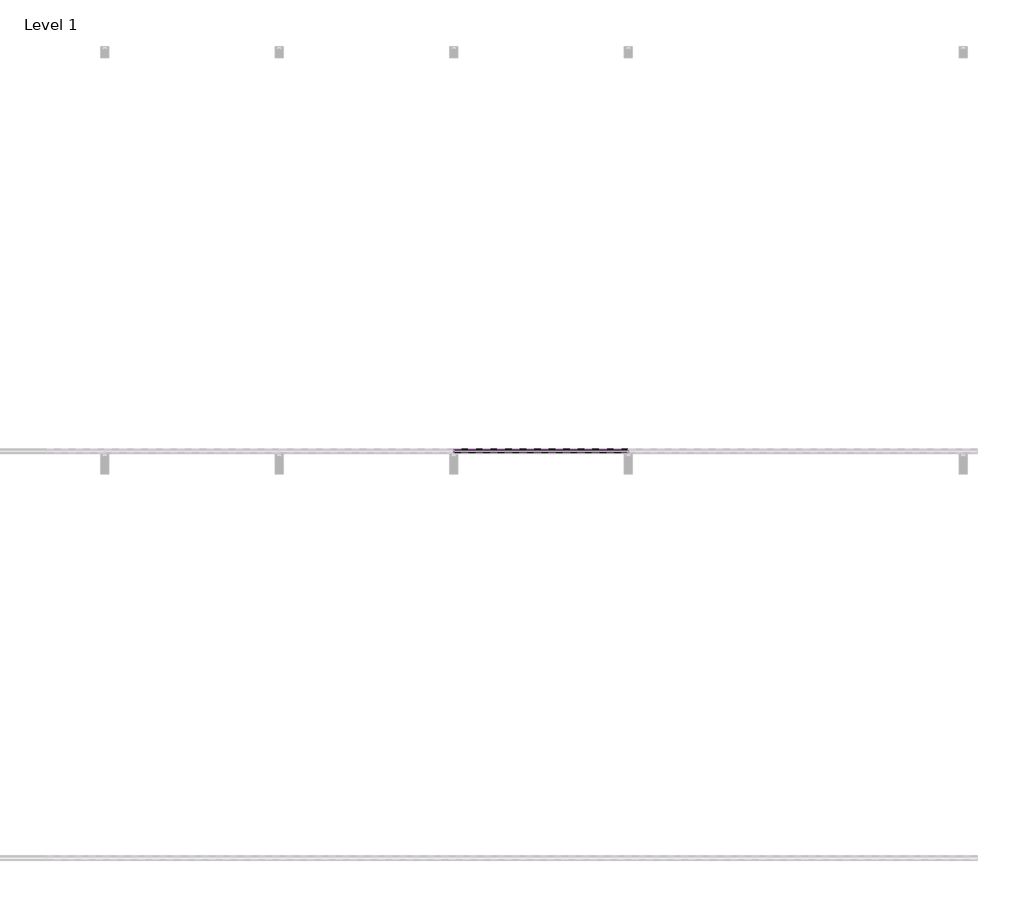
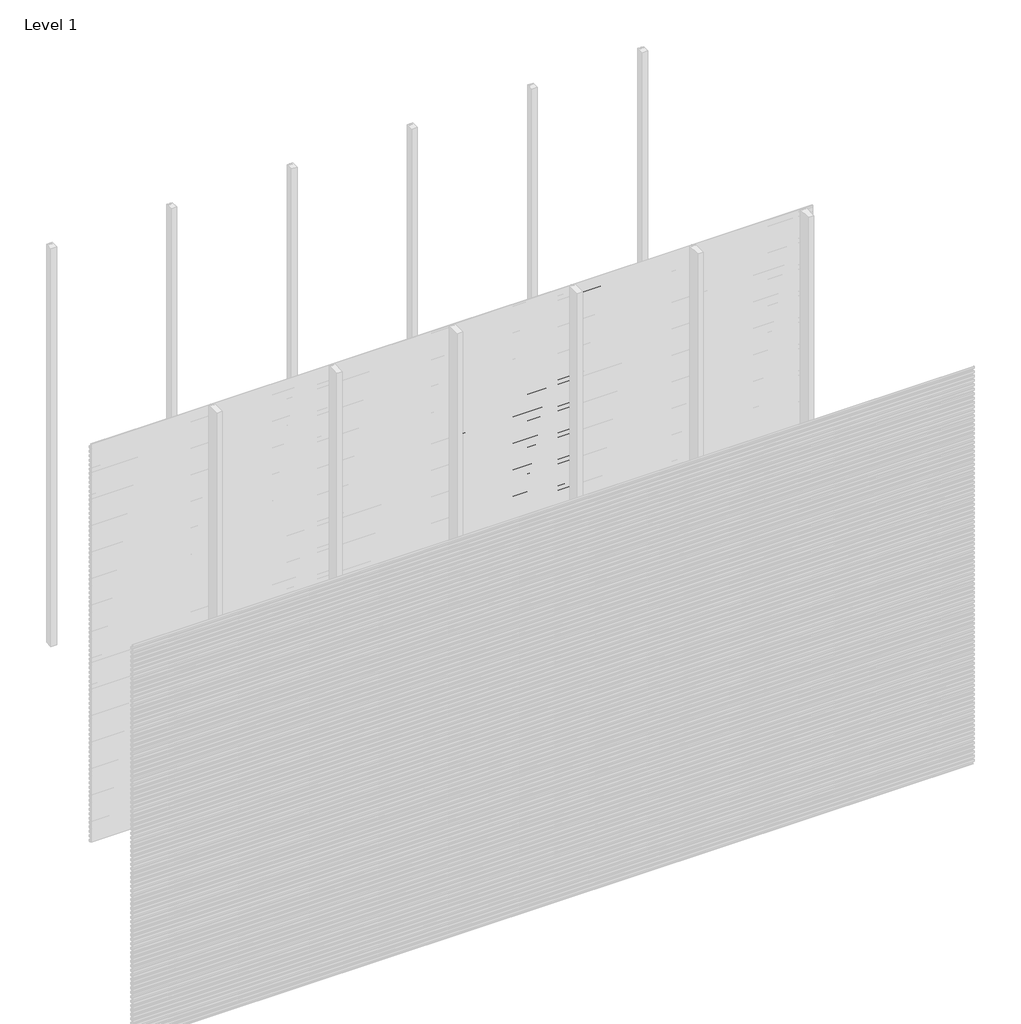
# One storey, part 38 of 96: 77 proxies.
"""IFC4 building model written with IfcOpenShell, lengths in millimetres."""

from ifc_helpers import new_model, si_unit, frame, origin, place, context, project, spatial, polyline, outline, extrude, element, save

model = new_model("IFC4")

# Units and contexts
model_context = context("Model", 3, world=origin())
ifc_project = project(units=[si_unit("LENGTHUNIT", "METRE", prefix="MILLI")], contexts=[model_context])

# Site, building, storey
site = spatial("IfcSite", under=ifc_project)
building = spatial("IfcBuilding", under=site)
storey = spatial("IfcBuildingStorey", under=building, Name="Level 1", Elevation=0.0)

# Proxies
placement = place(None, origin())
element("IfcBuildingElementProxy", 1, Name="Wall Sweeps", at=placement, inside=storey, context=model_context, shape_type="SweptSolid", body=[
    extrude(outline(polyline([(-35977.6, 2438.9655033), (-35977.6, 2424.6779188), (-35982.4114965, 2421.9), (-35982.4114965, 2423.1701706), (-35978.85, 2425.2264016), (-35978.85, 2438.2437382), (-35998.0, 2449.3000799), (-35998.0, 2464.2), (-35996.75, 2464.2), (-35996.75, 2450.0217609), (-35977.6, 2438.9655033)])), frame((3428.5714286, 0.0, 0.0), z_axis=(1.0, 0.0, 0.0), x_axis=(0.0, 1.0, 0.0)), (0.0, 0.0, 1.0), 857.1428571),
])
element("IfcBuildingElementProxy", 2, Name="Wall Sweeps", at=placement, inside=storey, context=model_context, shape_type="SweptSolid", body=[
    extrude(outline(polyline([(-35977.6, 2405.6655033), (-35977.6, 2391.3779188), (-35982.4114965, 2388.6), (-35982.4114965, 2389.8701706), (-35978.85, 2391.9264016), (-35978.85, 2404.9437382), (-35998.0, 2416.0000799), (-35998.0, 2430.9), (-35996.75, 2430.9), (-35996.75, 2416.7217609), (-35977.6, 2405.6655033)])), frame((3428.5714286, 0.0, 0.0), z_axis=(1.0, 0.0, 0.0), x_axis=(0.0, 1.0, 0.0)), (0.0, 0.0, 1.0), 857.1428571),
])
element("IfcBuildingElementProxy", 3, Name="Wall Sweeps", at=placement, inside=storey, context=model_context, shape_type="SweptSolid", body=[
    extrude(outline(polyline([(-35977.6, 2372.3655033), (-35977.6, 2358.0779188), (-35982.4114965, 2355.3), (-35982.4114965, 2356.5701706), (-35978.85, 2358.6264016), (-35978.85, 2371.6437382), (-35998.0, 2382.7000799), (-35998.0, 2397.6), (-35996.75, 2397.6), (-35996.75, 2383.4217609), (-35977.6, 2372.3655033)])), frame((3428.5714286, 0.0, 0.0), z_axis=(1.0, 0.0, 0.0), x_axis=(0.0, 1.0, 0.0)), (0.0, 0.0, 1.0), 857.1428571),
])
element("IfcBuildingElementProxy", 4, Name="Wall Sweeps", at=placement, inside=storey, context=model_context, shape_type="SweptSolid", body=[
    extrude(outline(polyline([(-35977.6, 2339.0655033), (-35977.6, 2324.7779188), (-35982.4114965, 2322.0), (-35982.4114965, 2323.2701706), (-35978.85, 2325.3264016), (-35978.85, 2338.3437382), (-35998.0, 2349.4000799), (-35998.0, 2364.3), (-35996.75, 2364.3), (-35996.75, 2350.1217609), (-35977.6, 2339.0655033)])), frame((3428.5714286, 0.0, 0.0), z_axis=(1.0, 0.0, 0.0), x_axis=(0.0, 1.0, 0.0)), (0.0, 0.0, 1.0), 857.1428571),
])
element("IfcBuildingElementProxy", 5, Name="Wall Sweeps", at=placement, inside=storey, context=model_context, shape_type="SweptSolid", body=[
    extrude(outline(polyline([(-35977.6, 2305.7655033), (-35977.6, 2291.4779188), (-35982.4114965, 2288.7), (-35982.4114965, 2289.9701706), (-35978.85, 2292.0264016), (-35978.85, 2305.0437382), (-35998.0, 2316.1000799), (-35998.0, 2331.0), (-35996.75, 2331.0), (-35996.75, 2316.8217609), (-35977.6, 2305.7655033)])), frame((3428.5714286, 0.0, 0.0), z_axis=(1.0, 0.0, 0.0), x_axis=(0.0, 1.0, 0.0)), (0.0, 0.0, 1.0), 857.1428571),
])
element("IfcBuildingElementProxy", 6, Name="Wall Sweeps", at=placement, inside=storey, context=model_context, shape_type="SweptSolid", body=[
    extrude(outline(polyline([(-35977.6, 2272.4655033), (-35977.6, 2258.1779188), (-35982.4114965, 2255.4), (-35982.4114965, 2256.6701706), (-35978.85, 2258.7264016), (-35978.85, 2271.7437382), (-35998.0, 2282.8000799), (-35998.0, 2297.7), (-35996.75, 2297.7), (-35996.75, 2283.5217609), (-35977.6, 2272.4655033)])), frame((3428.5714286, 0.0, 0.0), z_axis=(1.0, 0.0, 0.0), x_axis=(0.0, 1.0, 0.0)), (0.0, 0.0, 1.0), 857.1428571),
])
element("IfcBuildingElementProxy", 7, Name="Wall Sweeps", at=placement, inside=storey, context=model_context, shape_type="SweptSolid", body=[
    extrude(outline(polyline([(-35977.6, 2239.1655033), (-35977.6, 2224.8779188), (-35982.4114965, 2222.1), (-35982.4114965, 2223.3701706), (-35978.85, 2225.4264016), (-35978.85, 2238.4437382), (-35998.0, 2249.5000799), (-35998.0, 2264.4), (-35996.75, 2264.4), (-35996.75, 2250.2217609), (-35977.6, 2239.1655033)])), frame((3428.5714286, 0.0, 0.0), z_axis=(1.0, 0.0, 0.0), x_axis=(0.0, 1.0, 0.0)), (0.0, 0.0, 1.0), 857.1428571),
])
element("IfcBuildingElementProxy", 8, Name="Wall Sweeps", at=placement, inside=storey, context=model_context, shape_type="SweptSolid", body=[
    extrude(outline(polyline([(-35977.6, 2205.8655033), (-35977.6, 2191.5779188), (-35982.4114965, 2188.8), (-35982.4114965, 2190.0701706), (-35978.85, 2192.1264016), (-35978.85, 2205.1437382), (-35998.0, 2216.2000799), (-35998.0, 2231.1), (-35996.75, 2231.1), (-35996.75, 2216.9217609), (-35977.6, 2205.8655033)])), frame((3428.5714286, 0.0, 0.0), z_axis=(1.0, 0.0, 0.0), x_axis=(0.0, 1.0, 0.0)), (0.0, 0.0, 1.0), 857.1428571),
])
element("IfcBuildingElementProxy", 9, Name="Wall Sweeps", at=placement, inside=storey, context=model_context, shape_type="SweptSolid", body=[
    extrude(outline(polyline([(-35977.6, 2172.5655033), (-35977.6, 2158.2779188), (-35982.4114965, 2155.5), (-35982.4114965, 2156.7701706), (-35978.85, 2158.8264016), (-35978.85, 2171.8437382), (-35998.0, 2182.9000799), (-35998.0, 2197.8), (-35996.75, 2197.8), (-35996.75, 2183.6217609), (-35977.6, 2172.5655033)])), frame((3428.5714286, 0.0, 0.0), z_axis=(1.0, 0.0, 0.0), x_axis=(0.0, 1.0, 0.0)), (0.0, 0.0, 1.0), 857.1428571),
])
element("IfcBuildingElementProxy", 10, Name="Wall Sweeps", at=placement, inside=storey, context=model_context, shape_type="SweptSolid", body=[
    extrude(outline(polyline([(-35977.6, 2139.2655033), (-35977.6, 2124.9779188), (-35982.4114965, 2122.2), (-35982.4114965, 2123.4701706), (-35978.85, 2125.5264016), (-35978.85, 2138.5437382), (-35998.0, 2149.6000799), (-35998.0, 2164.5), (-35996.75, 2164.5), (-35996.75, 2150.3217609), (-35977.6, 2139.2655033)])), frame((3428.5714286, 0.0, 0.0), z_axis=(1.0, 0.0, 0.0), x_axis=(0.0, 1.0, 0.0)), (0.0, 0.0, 1.0), 857.1428571),
])
element("IfcBuildingElementProxy", 11, Name="Wall Sweeps", at=placement, inside=storey, context=model_context, shape_type="SweptSolid", body=[
    extrude(outline(polyline([(-35977.6, 2105.9655033), (-35977.6, 2091.6779188), (-35982.4114965, 2088.9), (-35982.4114965, 2090.1701706), (-35978.85, 2092.2264016), (-35978.85, 2105.2437382), (-35998.0, 2116.3000799), (-35998.0, 2131.2), (-35996.75, 2131.2), (-35996.75, 2117.0217609), (-35977.6, 2105.9655033)])), frame((3428.5714286, 0.0, 0.0), z_axis=(1.0, 0.0, 0.0), x_axis=(0.0, 1.0, 0.0)), (0.0, 0.0, 1.0), 857.1428571),
])
element("IfcBuildingElementProxy", 12, Name="Wall Sweeps", at=placement, inside=storey, context=model_context, shape_type="SweptSolid", body=[
    extrude(outline(polyline([(-35977.6, 2072.6655033), (-35977.6, 2058.3779188), (-35982.4114965, 2055.6), (-35982.4114965, 2056.8701706), (-35978.85, 2058.9264016), (-35978.85, 2071.9437382), (-35998.0, 2083.0000799), (-35998.0, 2097.9), (-35996.75, 2097.9), (-35996.75, 2083.7217609), (-35977.6, 2072.6655033)])), frame((3428.5714286, 0.0, 0.0), z_axis=(1.0, 0.0, 0.0), x_axis=(0.0, 1.0, 0.0)), (0.0, 0.0, 1.0), 857.1428571),
])
element("IfcBuildingElementProxy", 13, Name="Wall Sweeps", at=placement, inside=storey, context=model_context, shape_type="SweptSolid", body=[
    extrude(outline(polyline([(-35977.6, 2039.3655033), (-35977.6, 2025.0779188), (-35982.4114965, 2022.3), (-35982.4114965, 2023.5701706), (-35978.85, 2025.6264016), (-35978.85, 2038.6437382), (-35998.0, 2049.7000799), (-35998.0, 2064.6), (-35996.75, 2064.6), (-35996.75, 2050.4217609), (-35977.6, 2039.3655033)])), frame((3428.5714286, 0.0, 0.0), z_axis=(1.0, 0.0, 0.0), x_axis=(0.0, 1.0, 0.0)), (0.0, 0.0, 1.0), 857.1428571),
])
element("IfcBuildingElementProxy", 14, Name="Wall Sweeps", at=placement, inside=storey, context=model_context, shape_type="SweptSolid", body=[
    extrude(outline(polyline([(-35977.6, 2006.0655033), (-35977.6, 1991.7779188), (-35982.4114965, 1989.0), (-35982.4114965, 1990.2701706), (-35978.85, 1992.3264016), (-35978.85, 2005.3437382), (-35998.0, 2016.4000799), (-35998.0, 2031.3), (-35996.75, 2031.3), (-35996.75, 2017.1217609), (-35977.6, 2006.0655033)])), frame((3428.5714286, 0.0, 0.0), z_axis=(1.0, 0.0, 0.0), x_axis=(0.0, 1.0, 0.0)), (0.0, 0.0, 1.0), 857.1428571),
])
element("IfcBuildingElementProxy", 15, Name="Wall Sweeps", at=placement, inside=storey, context=model_context, shape_type="SweptSolid", body=[
    extrude(outline(polyline([(-35977.6, 1972.7655033), (-35977.6, 1958.4779188), (-35982.4114965, 1955.7), (-35982.4114965, 1956.9701706), (-35978.85, 1959.0264016), (-35978.85, 1972.0437382), (-35998.0, 1983.1000799), (-35998.0, 1998.0), (-35996.75, 1998.0), (-35996.75, 1983.8217609), (-35977.6, 1972.7655033)])), frame((3428.5714286, 0.0, 0.0), z_axis=(1.0, 0.0, 0.0), x_axis=(0.0, 1.0, 0.0)), (0.0, 0.0, 1.0), 857.1428571),
])
element("IfcBuildingElementProxy", 16, Name="Wall Sweeps", at=placement, inside=storey, context=model_context, shape_type="SweptSolid", body=[
    extrude(outline(polyline([(-35977.6, 1939.4655033), (-35977.6, 1925.1779188), (-35982.4114965, 1922.4), (-35982.4114965, 1923.6701706), (-35978.85, 1925.7264016), (-35978.85, 1938.7437382), (-35998.0, 1949.8000799), (-35998.0, 1964.7), (-35996.75, 1964.7), (-35996.75, 1950.5217609), (-35977.6, 1939.4655033)])), frame((3428.5714286, 0.0, 0.0), z_axis=(1.0, 0.0, 0.0), x_axis=(0.0, 1.0, 0.0)), (0.0, 0.0, 1.0), 857.1428571),
])
element("IfcBuildingElementProxy", 17, Name="Wall Sweeps", at=placement, inside=storey, context=model_context, shape_type="SweptSolid", body=[
    extrude(outline(polyline([(-35977.6, 1906.1655033), (-35977.6, 1891.8779188), (-35982.4114965, 1889.1), (-35982.4114965, 1890.3701706), (-35978.85, 1892.4264016), (-35978.85, 1905.4437382), (-35998.0, 1916.5000799), (-35998.0, 1931.4), (-35996.75, 1931.4), (-35996.75, 1917.2217609), (-35977.6, 1906.1655033)])), frame((3428.5714286, 0.0, 0.0), z_axis=(1.0, 0.0, 0.0), x_axis=(0.0, 1.0, 0.0)), (0.0, 0.0, 1.0), 857.1428571),
])
element("IfcBuildingElementProxy", 18, Name="Wall Sweeps", at=placement, inside=storey, context=model_context, shape_type="SweptSolid", body=[
    extrude(outline(polyline([(-35977.6, 1872.8655033), (-35977.6, 1858.5779188), (-35982.4114965, 1855.8), (-35982.4114965, 1857.0701706), (-35978.85, 1859.1264016), (-35978.85, 1872.1437382), (-35998.0, 1883.2000799), (-35998.0, 1898.1), (-35996.75, 1898.1), (-35996.75, 1883.9217609), (-35977.6, 1872.8655033)])), frame((3428.5714286, 0.0, 0.0), z_axis=(1.0, 0.0, 0.0), x_axis=(0.0, 1.0, 0.0)), (0.0, 0.0, 1.0), 857.1428571),
])
element("IfcBuildingElementProxy", 19, Name="Wall Sweeps", at=placement, inside=storey, context=model_context, shape_type="SweptSolid", body=[
    extrude(outline(polyline([(-35977.6, 1839.5655033), (-35977.6, 1825.2779188), (-35982.4114965, 1822.5), (-35982.4114965, 1823.7701706), (-35978.85, 1825.8264016), (-35978.85, 1838.8437382), (-35998.0, 1849.9000799), (-35998.0, 1864.8), (-35996.75, 1864.8), (-35996.75, 1850.6217609), (-35977.6, 1839.5655033)])), frame((3428.5714286, 0.0, 0.0), z_axis=(1.0, 0.0, 0.0), x_axis=(0.0, 1.0, 0.0)), (0.0, 0.0, 1.0), 857.1428571),
])
element("IfcBuildingElementProxy", 20, Name="Wall Sweeps", at=placement, inside=storey, context=model_context, shape_type="SweptSolid", body=[
    extrude(outline(polyline([(-35977.6, 1806.2655033), (-35977.6, 1791.9779188), (-35982.4114965, 1789.2), (-35982.4114965, 1790.4701706), (-35978.85, 1792.5264016), (-35978.85, 1805.5437382), (-35998.0, 1816.6000799), (-35998.0, 1831.5), (-35996.75, 1831.5), (-35996.75, 1817.3217609), (-35977.6, 1806.2655033)])), frame((3428.5714286, 0.0, 0.0), z_axis=(1.0, 0.0, 0.0), x_axis=(0.0, 1.0, 0.0)), (0.0, 0.0, 1.0), 857.1428571),
])
element("IfcBuildingElementProxy", 21, Name="Wall Sweeps", at=placement, inside=storey, context=model_context, shape_type="SweptSolid", body=[
    extrude(outline(polyline([(-35977.6, 1772.9655033), (-35977.6, 1758.6779188), (-35982.4114965, 1755.9), (-35982.4114965, 1757.1701706), (-35978.85, 1759.2264016), (-35978.85, 1772.2437382), (-35998.0, 1783.3000799), (-35998.0, 1798.2), (-35996.75, 1798.2), (-35996.75, 1784.0217609), (-35977.6, 1772.9655033)])), frame((3428.5714286, 0.0, 0.0), z_axis=(1.0, 0.0, 0.0), x_axis=(0.0, 1.0, 0.0)), (0.0, 0.0, 1.0), 857.1428571),
])
element("IfcBuildingElementProxy", 22, Name="Wall Sweeps", at=placement, inside=storey, context=model_context, shape_type="SweptSolid", body=[
    extrude(outline(polyline([(-35977.6, 1739.6655033), (-35977.6, 1725.3779188), (-35982.4114965, 1722.6), (-35982.4114965, 1723.8701706), (-35978.85, 1725.9264016), (-35978.85, 1738.9437382), (-35998.0, 1750.0000799), (-35998.0, 1764.9), (-35996.75, 1764.9), (-35996.75, 1750.7217609), (-35977.6, 1739.6655033)])), frame((3428.5714286, 0.0, 0.0), z_axis=(1.0, 0.0, 0.0), x_axis=(0.0, 1.0, 0.0)), (0.0, 0.0, 1.0), 857.1428571),
])
element("IfcBuildingElementProxy", 23, Name="Wall Sweeps", at=placement, inside=storey, context=model_context, shape_type="SweptSolid", body=[
    extrude(outline(polyline([(-35977.6, 1706.3655033), (-35977.6, 1692.0779188), (-35982.4114965, 1689.3), (-35982.4114965, 1690.5701706), (-35978.85, 1692.6264016), (-35978.85, 1705.6437382), (-35998.0, 1716.7000799), (-35998.0, 1731.6), (-35996.75, 1731.6), (-35996.75, 1717.4217609), (-35977.6, 1706.3655033)])), frame((3428.5714286, 0.0, 0.0), z_axis=(1.0, 0.0, 0.0), x_axis=(0.0, 1.0, 0.0)), (0.0, 0.0, 1.0), 857.1428571),
])
element("IfcBuildingElementProxy", 24, Name="Wall Sweeps", at=placement, inside=storey, context=model_context, shape_type="SweptSolid", body=[
    extrude(outline(polyline([(-35977.6, 1673.0655033), (-35977.6, 1658.7779188), (-35982.4114965, 1656.0), (-35982.4114965, 1657.2701706), (-35978.85, 1659.3264016), (-35978.85, 1672.3437382), (-35998.0, 1683.4000799), (-35998.0, 1698.3), (-35996.75, 1698.3), (-35996.75, 1684.1217609), (-35977.6, 1673.0655033)])), frame((3428.5714286, 0.0, 0.0), z_axis=(1.0, 0.0, 0.0), x_axis=(0.0, 1.0, 0.0)), (0.0, 0.0, 1.0), 857.1428571),
])
element("IfcBuildingElementProxy", 25, Name="Wall Sweeps", at=placement, inside=storey, context=model_context, shape_type="SweptSolid", body=[
    extrude(outline(polyline([(-35977.6, 1639.7655033), (-35977.6, 1625.4779188), (-35982.4114965, 1622.7), (-35982.4114965, 1623.9701706), (-35978.85, 1626.0264016), (-35978.85, 1639.0437382), (-35998.0, 1650.1000799), (-35998.0, 1665.0), (-35996.75, 1665.0), (-35996.75, 1650.8217609), (-35977.6, 1639.7655033)])), frame((3428.5714286, 0.0, 0.0), z_axis=(1.0, 0.0, 0.0), x_axis=(0.0, 1.0, 0.0)), (0.0, 0.0, 1.0), 857.1428571),
])
element("IfcBuildingElementProxy", 26, Name="Wall Sweeps", at=placement, inside=storey, context=model_context, shape_type="SweptSolid", body=[
    extrude(outline(polyline([(-35977.6, 1606.4655033), (-35977.6, 1592.1779188), (-35982.4114965, 1589.4), (-35982.4114965, 1590.6701706), (-35978.85, 1592.7264016), (-35978.85, 1605.7437382), (-35998.0, 1616.8000799), (-35998.0, 1631.7), (-35996.75, 1631.7), (-35996.75, 1617.5217609), (-35977.6, 1606.4655033)])), frame((3428.5714286, 0.0, 0.0), z_axis=(1.0, 0.0, 0.0), x_axis=(0.0, 1.0, 0.0)), (0.0, 0.0, 1.0), 857.1428571),
])
element("IfcBuildingElementProxy", 27, Name="Wall Sweeps", at=placement, inside=storey, context=model_context, shape_type="SweptSolid", body=[
    extrude(outline(polyline([(-35977.6, 1573.1655033), (-35977.6, 1558.8779188), (-35982.4114965, 1556.1), (-35982.4114965, 1557.3701706), (-35978.85, 1559.4264016), (-35978.85, 1572.4437382), (-35998.0, 1583.5000799), (-35998.0, 1598.4), (-35996.75, 1598.4), (-35996.75, 1584.2217609), (-35977.6, 1573.1655033)])), frame((3428.5714286, 0.0, 0.0), z_axis=(1.0, 0.0, 0.0), x_axis=(0.0, 1.0, 0.0)), (0.0, 0.0, 1.0), 857.1428571),
])
element("IfcBuildingElementProxy", 28, Name="Wall Sweeps", at=placement, inside=storey, context=model_context, shape_type="SweptSolid", body=[
    extrude(outline(polyline([(-35977.6, 1539.8655033), (-35977.6, 1525.5779188), (-35982.4114965, 1522.8), (-35982.4114965, 1524.0701706), (-35978.85, 1526.1264016), (-35978.85, 1539.1437382), (-35998.0, 1550.2000799), (-35998.0, 1565.1), (-35996.75, 1565.1), (-35996.75, 1550.9217609), (-35977.6, 1539.8655033)])), frame((3428.5714286, 0.0, 0.0), z_axis=(1.0, 0.0, 0.0), x_axis=(0.0, 1.0, 0.0)), (0.0, 0.0, 1.0), 857.1428571),
])
element("IfcBuildingElementProxy", 29, Name="Wall Sweeps", at=placement, inside=storey, context=model_context, shape_type="SweptSolid", body=[
    extrude(outline(polyline([(-35977.6, 1506.5655033), (-35977.6, 1492.2779188), (-35982.4114965, 1489.5), (-35982.4114965, 1490.7701706), (-35978.85, 1492.8264016), (-35978.85, 1505.8437382), (-35998.0, 1516.9000799), (-35998.0, 1531.8), (-35996.75, 1531.8), (-35996.75, 1517.6217609), (-35977.6, 1506.5655033)])), frame((3428.5714286, 0.0, 0.0), z_axis=(1.0, 0.0, 0.0), x_axis=(0.0, 1.0, 0.0)), (0.0, 0.0, 1.0), 857.1428571),
])
element("IfcBuildingElementProxy", 30, Name="Wall Sweeps", at=placement, inside=storey, context=model_context, shape_type="SweptSolid", body=[
    extrude(outline(polyline([(-35977.6, 1473.2655033), (-35977.6, 1458.9779188), (-35982.4114965, 1456.2), (-35982.4114965, 1457.4701706), (-35978.85, 1459.5264016), (-35978.85, 1472.5437382), (-35998.0, 1483.6000799), (-35998.0, 1498.5), (-35996.75, 1498.5), (-35996.75, 1484.3217609), (-35977.6, 1473.2655033)])), frame((3428.5714286, 0.0, 0.0), z_axis=(1.0, 0.0, 0.0), x_axis=(0.0, 1.0, 0.0)), (0.0, 0.0, 1.0), 857.1428571),
])
element("IfcBuildingElementProxy", 31, Name="Wall Sweeps", at=placement, inside=storey, context=model_context, shape_type="SweptSolid", body=[
    extrude(outline(polyline([(-35977.6, 1439.9655033), (-35977.6, 1425.6779188), (-35982.4114965, 1422.9), (-35982.4114965, 1424.1701706), (-35978.85, 1426.2264016), (-35978.85, 1439.2437382), (-35998.0, 1450.3000799), (-35998.0, 1465.2), (-35996.75, 1465.2), (-35996.75, 1451.0217609), (-35977.6, 1439.9655033)])), frame((3428.5714286, 0.0, 0.0), z_axis=(1.0, 0.0, 0.0), x_axis=(0.0, 1.0, 0.0)), (0.0, 0.0, 1.0), 857.1428571),
])
element("IfcBuildingElementProxy", 32, Name="Wall Sweeps", at=placement, inside=storey, context=model_context, shape_type="SweptSolid", body=[
    extrude(outline(polyline([(-35977.6, 1406.6655033), (-35977.6, 1392.3779188), (-35982.4114965, 1389.6), (-35982.4114965, 1390.8701706), (-35978.85, 1392.9264016), (-35978.85, 1405.9437382), (-35998.0, 1417.0000799), (-35998.0, 1431.9), (-35996.75, 1431.9), (-35996.75, 1417.7217609), (-35977.6, 1406.6655033)])), frame((3428.5714286, 0.0, 0.0), z_axis=(1.0, 0.0, 0.0), x_axis=(0.0, 1.0, 0.0)), (0.0, 0.0, 1.0), 857.1428571),
])
element("IfcBuildingElementProxy", 33, Name="Wall Sweeps", at=placement, inside=storey, context=model_context, shape_type="SweptSolid", body=[
    extrude(outline(polyline([(-35977.6, 1373.3655033), (-35977.6, 1359.0779188), (-35982.4114965, 1356.3), (-35982.4114965, 1357.5701706), (-35978.85, 1359.6264016), (-35978.85, 1372.6437382), (-35998.0, 1383.7000799), (-35998.0, 1398.6), (-35996.75, 1398.6), (-35996.75, 1384.4217609), (-35977.6, 1373.3655033)])), frame((3428.5714286, 0.0, 0.0), z_axis=(1.0, 0.0, 0.0), x_axis=(0.0, 1.0, 0.0)), (0.0, 0.0, 1.0), 857.1428571),
])
element("IfcBuildingElementProxy", 34, Name="Wall Sweeps", at=placement, inside=storey, context=model_context, shape_type="SweptSolid", body=[
    extrude(outline(polyline([(-35977.6, 1340.0655033), (-35977.6, 1325.7779188), (-35982.4114965, 1323.0), (-35982.4114965, 1324.2701706), (-35978.85, 1326.3264016), (-35978.85, 1339.3437382), (-35998.0, 1350.4000799), (-35998.0, 1365.3), (-35996.75, 1365.3), (-35996.75, 1351.1217609), (-35977.6, 1340.0655033)])), frame((3428.5714286, 0.0, 0.0), z_axis=(1.0, 0.0, 0.0), x_axis=(0.0, 1.0, 0.0)), (0.0, 0.0, 1.0), 857.1428571),
])
element("IfcBuildingElementProxy", 35, Name="Wall Sweeps", at=placement, inside=storey, context=model_context, shape_type="SweptSolid", body=[
    extrude(outline(polyline([(-35977.6, 1306.7655033), (-35977.6, 1292.4779188), (-35982.4114965, 1289.7), (-35982.4114965, 1290.9701706), (-35978.85, 1293.0264016), (-35978.85, 1306.0437382), (-35998.0, 1317.1000799), (-35998.0, 1332.0), (-35996.75, 1332.0), (-35996.75, 1317.8217609), (-35977.6, 1306.7655033)])), frame((3428.5714286, 0.0, 0.0), z_axis=(1.0, 0.0, 0.0), x_axis=(0.0, 1.0, 0.0)), (0.0, 0.0, 1.0), 857.1428571),
])
element("IfcBuildingElementProxy", 36, Name="Wall Sweeps", at=placement, inside=storey, context=model_context, shape_type="SweptSolid", body=[
    extrude(outline(polyline([(-35977.6, 1273.4655033), (-35977.6, 1259.1779188), (-35982.4114965, 1256.4), (-35982.4114965, 1257.6701706), (-35978.85, 1259.7264016), (-35978.85, 1272.7437382), (-35998.0, 1283.8000799), (-35998.0, 1298.7), (-35996.75, 1298.7), (-35996.75, 1284.5217609), (-35977.6, 1273.4655033)])), frame((3428.5714286, 0.0, 0.0), z_axis=(1.0, 0.0, 0.0), x_axis=(0.0, 1.0, 0.0)), (0.0, 0.0, 1.0), 857.1428571),
])
element("IfcBuildingElementProxy", 37, Name="Wall Sweeps", at=placement, inside=storey, context=model_context, shape_type="SweptSolid", body=[
    extrude(outline(polyline([(-35977.6, 1240.1655033), (-35977.6, 1225.8779188), (-35982.4114965, 1223.1), (-35982.4114965, 1224.3701706), (-35978.85, 1226.4264016), (-35978.85, 1239.4437382), (-35998.0, 1250.5000799), (-35998.0, 1265.4), (-35996.75, 1265.4), (-35996.75, 1251.2217609), (-35977.6, 1240.1655033)])), frame((3428.5714286, 0.0, 0.0), z_axis=(1.0, 0.0, 0.0), x_axis=(0.0, 1.0, 0.0)), (0.0, 0.0, 1.0), 857.1428571),
])
element("IfcBuildingElementProxy", 38, Name="Wall Sweeps", at=placement, inside=storey, context=model_context, shape_type="SweptSolid", body=[
    extrude(outline(polyline([(-35977.6, 1206.8655033), (-35977.6, 1192.5779188), (-35982.4114965, 1189.8), (-35982.4114965, 1191.0701706), (-35978.85, 1193.1264016), (-35978.85, 1206.1437382), (-35998.0, 1217.2000799), (-35998.0, 1232.1), (-35996.75, 1232.1), (-35996.75, 1217.9217609), (-35977.6, 1206.8655033)])), frame((3428.5714286, 0.0, 0.0), z_axis=(1.0, 0.0, 0.0), x_axis=(0.0, 1.0, 0.0)), (0.0, 0.0, 1.0), 857.1428571),
])
element("IfcBuildingElementProxy", 39, Name="Wall Sweeps", at=placement, inside=storey, context=model_context, shape_type="SweptSolid", body=[
    extrude(outline(polyline([(-35977.6, 1173.5655033), (-35977.6, 1159.2779188), (-35982.4114965, 1156.5), (-35982.4114965, 1157.7701706), (-35978.85, 1159.8264016), (-35978.85, 1172.8437382), (-35998.0, 1183.9000799), (-35998.0, 1198.8), (-35996.75, 1198.8), (-35996.75, 1184.6217609), (-35977.6, 1173.5655033)])), frame((3428.5714286, 0.0, 0.0), z_axis=(1.0, 0.0, 0.0), x_axis=(0.0, 1.0, 0.0)), (0.0, 0.0, 1.0), 857.1428571),
])
element("IfcBuildingElementProxy", 40, Name="Wall Sweeps", at=placement, inside=storey, context=model_context, shape_type="SweptSolid", body=[
    extrude(outline(polyline([(-35977.6, 1140.2655033), (-35977.6, 1125.9779188), (-35982.4114965, 1123.2), (-35982.4114965, 1124.4701706), (-35978.85, 1126.5264016), (-35978.85, 1139.5437382), (-35998.0, 1150.6000799), (-35998.0, 1165.5), (-35996.75, 1165.5), (-35996.75, 1151.3217609), (-35977.6, 1140.2655033)])), frame((3428.5714286, 0.0, 0.0), z_axis=(1.0, 0.0, 0.0), x_axis=(0.0, 1.0, 0.0)), (0.0, 0.0, 1.0), 857.1428571),
])
element("IfcBuildingElementProxy", 41, Name="Wall Sweeps", at=placement, inside=storey, context=model_context, shape_type="SweptSolid", body=[
    extrude(outline(polyline([(-35977.6, 1106.9655033), (-35977.6, 1092.6779188), (-35982.4114965, 1089.9), (-35982.4114965, 1091.1701706), (-35978.85, 1093.2264016), (-35978.85, 1106.2437382), (-35998.0, 1117.3000799), (-35998.0, 1132.2), (-35996.75, 1132.2), (-35996.75, 1118.0217609), (-35977.6, 1106.9655033)])), frame((3428.5714286, 0.0, 0.0), z_axis=(1.0, 0.0, 0.0), x_axis=(0.0, 1.0, 0.0)), (0.0, 0.0, 1.0), 857.1428571),
])
element("IfcBuildingElementProxy", 42, Name="Wall Sweeps", at=placement, inside=storey, context=model_context, shape_type="SweptSolid", body=[
    extrude(outline(polyline([(-35977.6, 1073.6655033), (-35977.6, 1059.3779188), (-35982.4114965, 1056.6), (-35982.4114965, 1057.8701706), (-35978.85, 1059.9264016), (-35978.85, 1072.9437382), (-35998.0, 1084.0000799), (-35998.0, 1098.9), (-35996.75, 1098.9), (-35996.75, 1084.7217609), (-35977.6, 1073.6655033)])), frame((3428.5714286, 0.0, 0.0), z_axis=(1.0, 0.0, 0.0), x_axis=(0.0, 1.0, 0.0)), (0.0, 0.0, 1.0), 857.1428571),
])
element("IfcBuildingElementProxy", 43, Name="Wall Sweeps", at=placement, inside=storey, context=model_context, shape_type="SweptSolid", body=[
    extrude(outline(polyline([(-35977.6, 1040.3655033), (-35977.6, 1026.0779188), (-35982.4114965, 1023.3), (-35982.4114965, 1024.5701706), (-35978.85, 1026.6264016), (-35978.85, 1039.6437382), (-35998.0, 1050.7000799), (-35998.0, 1065.6), (-35996.75, 1065.6), (-35996.75, 1051.4217609), (-35977.6, 1040.3655033)])), frame((3428.5714286, 0.0, 0.0), z_axis=(1.0, 0.0, 0.0), x_axis=(0.0, 1.0, 0.0)), (0.0, 0.0, 1.0), 857.1428571),
])
element("IfcBuildingElementProxy", 44, Name="Wall Sweeps", at=placement, inside=storey, context=model_context, shape_type="SweptSolid", body=[
    extrude(outline(polyline([(-35977.6, 1007.0655033), (-35977.6, 992.7779188), (-35982.4114965, 990.0), (-35982.4114965, 991.2701706), (-35978.85, 993.3264016), (-35978.85, 1006.3437382), (-35998.0, 1017.4000799), (-35998.0, 1032.3), (-35996.75, 1032.3), (-35996.75, 1018.1217609), (-35977.6, 1007.0655033)])), frame((3428.5714286, 0.0, 0.0), z_axis=(1.0, 0.0, 0.0), x_axis=(0.0, 1.0, 0.0)), (0.0, 0.0, 1.0), 857.1428571),
])
element("IfcBuildingElementProxy", 45, Name="Wall Sweeps", at=placement, inside=storey, context=model_context, shape_type="SweptSolid", body=[
    extrude(outline(polyline([(-35977.6, 973.7655033), (-35977.6, 959.4779188), (-35982.4114965, 956.7), (-35982.4114965, 957.9701706), (-35978.85, 960.0264016), (-35978.85, 973.0437382), (-35998.0, 984.1000799), (-35998.0, 999.0), (-35996.75, 999.0), (-35996.75, 984.8217609), (-35977.6, 973.7655033)])), frame((3428.5714286, 0.0, 0.0), z_axis=(1.0, 0.0, 0.0), x_axis=(0.0, 1.0, 0.0)), (0.0, 0.0, 1.0), 857.1428571),
])
element("IfcBuildingElementProxy", 46, Name="Wall Sweeps", at=placement, inside=storey, context=model_context, shape_type="SweptSolid", body=[
    extrude(outline(polyline([(-35977.6, 940.4655033), (-35977.6, 926.1779188), (-35982.4114965, 923.4), (-35982.4114965, 924.6701706), (-35978.85, 926.7264016), (-35978.85, 939.7437382), (-35998.0, 950.8000799), (-35998.0, 965.7), (-35996.75, 965.7), (-35996.75, 951.5217609), (-35977.6, 940.4655033)])), frame((3428.5714286, 0.0, 0.0), z_axis=(1.0, 0.0, 0.0), x_axis=(0.0, 1.0, 0.0)), (0.0, 0.0, 1.0), 857.1428571),
])
element("IfcBuildingElementProxy", 47, Name="Wall Sweeps", at=placement, inside=storey, context=model_context, shape_type="SweptSolid", body=[
    extrude(outline(polyline([(-35977.6, 907.1655033), (-35977.6, 892.8779188), (-35982.4114965, 890.1), (-35982.4114965, 891.3701706), (-35978.85, 893.4264016), (-35978.85, 906.4437382), (-35998.0, 917.5000799), (-35998.0, 932.4), (-35996.75, 932.4), (-35996.75, 918.2217609), (-35977.6, 907.1655033)])), frame((3428.5714286, 0.0, 0.0), z_axis=(1.0, 0.0, 0.0), x_axis=(0.0, 1.0, 0.0)), (0.0, 0.0, 1.0), 857.1428571),
])
element("IfcBuildingElementProxy", 48, Name="Wall Sweeps", at=placement, inside=storey, context=model_context, shape_type="SweptSolid", body=[
    extrude(outline(polyline([(-35977.6, 873.8655033), (-35977.6, 859.5779188), (-35982.4114965, 856.8), (-35982.4114965, 858.0701706), (-35978.85, 860.1264016), (-35978.85, 873.1437382), (-35998.0, 884.2000799), (-35998.0, 899.1), (-35996.75, 899.1), (-35996.75, 884.9217609), (-35977.6, 873.8655033)])), frame((3428.5714286, 0.0, 0.0), z_axis=(1.0, 0.0, 0.0), x_axis=(0.0, 1.0, 0.0)), (0.0, 0.0, 1.0), 857.1428571),
])
element("IfcBuildingElementProxy", 49, Name="Wall Sweeps", at=placement, inside=storey, context=model_context, shape_type="SweptSolid", body=[
    extrude(outline(polyline([(-35977.6, 840.5655033), (-35977.6, 826.2779188), (-35982.4114965, 823.5), (-35982.4114965, 824.7701706), (-35978.85, 826.8264016), (-35978.85, 839.8437382), (-35998.0, 850.9000799), (-35998.0, 865.8), (-35996.75, 865.8), (-35996.75, 851.6217609), (-35977.6, 840.5655033)])), frame((3428.5714286, 0.0, 0.0), z_axis=(1.0, 0.0, 0.0), x_axis=(0.0, 1.0, 0.0)), (0.0, 0.0, 1.0), 857.1428571),
])
element("IfcBuildingElementProxy", 50, Name="Wall Sweeps", at=placement, inside=storey, context=model_context, shape_type="SweptSolid", body=[
    extrude(outline(polyline([(-35977.6, 807.2655033), (-35977.6, 792.9779188), (-35982.4114965, 790.2), (-35982.4114965, 791.4701706), (-35978.85, 793.5264016), (-35978.85, 806.5437382), (-35998.0, 817.6000799), (-35998.0, 832.5), (-35996.75, 832.5), (-35996.75, 818.3217609), (-35977.6, 807.2655033)])), frame((3428.5714286, 0.0, 0.0), z_axis=(1.0, 0.0, 0.0), x_axis=(0.0, 1.0, 0.0)), (0.0, 0.0, 1.0), 857.1428571),
])
element("IfcBuildingElementProxy", 51, Name="Wall Sweeps", at=placement, inside=storey, context=model_context, shape_type="SweptSolid", body=[
    extrude(outline(polyline([(-35977.6, 773.9655033), (-35977.6, 759.6779188), (-35982.4114965, 756.9), (-35982.4114965, 758.1701706), (-35978.85, 760.2264016), (-35978.85, 773.2437382), (-35998.0, 784.3000799), (-35998.0, 799.2), (-35996.75, 799.2), (-35996.75, 785.0217609), (-35977.6, 773.9655033)])), frame((3428.5714286, 0.0, 0.0), z_axis=(1.0, 0.0, 0.0), x_axis=(0.0, 1.0, 0.0)), (0.0, 0.0, 1.0), 857.1428571),
])
element("IfcBuildingElementProxy", 52, Name="Wall Sweeps", at=placement, inside=storey, context=model_context, shape_type="SweptSolid", body=[
    extrude(outline(polyline([(-35977.6, 740.6655033), (-35977.6, 726.3779188), (-35982.4114965, 723.6), (-35982.4114965, 724.8701706), (-35978.85, 726.9264016), (-35978.85, 739.9437382), (-35998.0, 751.0000799), (-35998.0, 765.9), (-35996.75, 765.9), (-35996.75, 751.7217609), (-35977.6, 740.6655033)])), frame((3428.5714286, 0.0, 0.0), z_axis=(1.0, 0.0, 0.0), x_axis=(0.0, 1.0, 0.0)), (0.0, 0.0, 1.0), 857.1428571),
])
element("IfcBuildingElementProxy", 53, Name="Wall Sweeps", at=placement, inside=storey, context=model_context, shape_type="SweptSolid", body=[
    extrude(outline(polyline([(-35977.6, 707.3655033), (-35977.6, 693.0779188), (-35982.4114965, 690.3), (-35982.4114965, 691.5701706), (-35978.85, 693.6264016), (-35978.85, 706.6437382), (-35998.0, 717.7000799), (-35998.0, 732.6), (-35996.75, 732.6), (-35996.75, 718.4217609), (-35977.6, 707.3655033)])), frame((3428.5714286, 0.0, 0.0), z_axis=(1.0, 0.0, 0.0), x_axis=(0.0, 1.0, 0.0)), (0.0, 0.0, 1.0), 857.1428571),
])
element("IfcBuildingElementProxy", 54, Name="Wall Sweeps", at=placement, inside=storey, context=model_context, shape_type="SweptSolid", body=[
    extrude(outline(polyline([(-35977.6, 674.0655033), (-35977.6, 659.7779188), (-35982.4114965, 657.0), (-35982.4114965, 658.2701706), (-35978.85, 660.3264016), (-35978.85, 673.3437382), (-35998.0, 684.4000799), (-35998.0, 699.3), (-35996.75, 699.3), (-35996.75, 685.1217609), (-35977.6, 674.0655033)])), frame((3428.5714286, 0.0, 0.0), z_axis=(1.0, 0.0, 0.0), x_axis=(0.0, 1.0, 0.0)), (0.0, 0.0, 1.0), 857.1428571),
])
element("IfcBuildingElementProxy", 55, Name="Wall Sweeps", at=placement, inside=storey, context=model_context, shape_type="SweptSolid", body=[
    extrude(outline(polyline([(-35977.6, 640.7655033), (-35977.6, 626.4779188), (-35982.4114965, 623.7), (-35982.4114965, 624.9701706), (-35978.85, 627.0264016), (-35978.85, 640.0437382), (-35998.0, 651.1000799), (-35998.0, 666.0), (-35996.75, 666.0), (-35996.75, 651.8217609), (-35977.6, 640.7655033)])), frame((3428.5714286, 0.0, 0.0), z_axis=(1.0, 0.0, 0.0), x_axis=(0.0, 1.0, 0.0)), (0.0, 0.0, 1.0), 857.1428571),
])
element("IfcBuildingElementProxy", 56, Name="Wall Sweeps", at=placement, inside=storey, context=model_context, shape_type="SweptSolid", body=[
    extrude(outline(polyline([(-35977.6, 607.4655033), (-35977.6, 593.1779188), (-35982.4114965, 590.4), (-35982.4114965, 591.6701706), (-35978.85, 593.7264016), (-35978.85, 606.7437382), (-35998.0, 617.8000799), (-35998.0, 632.7), (-35996.75, 632.7), (-35996.75, 618.5217609), (-35977.6, 607.4655033)])), frame((3428.5714286, 0.0, 0.0), z_axis=(1.0, 0.0, 0.0), x_axis=(0.0, 1.0, 0.0)), (0.0, 0.0, 1.0), 857.1428571),
])
element("IfcBuildingElementProxy", 57, Name="Wall Sweeps", at=placement, inside=storey, context=model_context, shape_type="SweptSolid", body=[
    extrude(outline(polyline([(-35977.6, 574.1655033), (-35977.6, 559.8779188), (-35982.4114965, 557.1), (-35982.4114965, 558.3701706), (-35978.85, 560.4264016), (-35978.85, 573.4437382), (-35998.0, 584.5000799), (-35998.0, 599.4), (-35996.75, 599.4), (-35996.75, 585.2217609), (-35977.6, 574.1655033)])), frame((3428.5714286, 0.0, 0.0), z_axis=(1.0, 0.0, 0.0), x_axis=(0.0, 1.0, 0.0)), (0.0, 0.0, 1.0), 857.1428571),
])
element("IfcBuildingElementProxy", 58, Name="Wall Sweeps", at=placement, inside=storey, context=model_context, shape_type="SweptSolid", body=[
    extrude(outline(polyline([(-35977.6, 540.8655033), (-35977.6, 526.5779188), (-35982.4114965, 523.8), (-35982.4114965, 525.0701706), (-35978.85, 527.1264016), (-35978.85, 540.1437382), (-35998.0, 551.2000799), (-35998.0, 566.1), (-35996.75, 566.1), (-35996.75, 551.9217609), (-35977.6, 540.8655033)])), frame((3428.5714286, 0.0, 0.0), z_axis=(1.0, 0.0, 0.0), x_axis=(0.0, 1.0, 0.0)), (0.0, 0.0, 1.0), 857.1428571),
])
element("IfcBuildingElementProxy", 59, Name="Wall Sweeps", at=placement, inside=storey, context=model_context, shape_type="SweptSolid", body=[
    extrude(outline(polyline([(-35977.6, 507.5655033), (-35977.6, 493.2779188), (-35982.4114965, 490.5), (-35982.4114965, 491.7701706), (-35978.85, 493.8264016), (-35978.85, 506.8437382), (-35998.0, 517.9000799), (-35998.0, 532.8), (-35996.75, 532.8), (-35996.75, 518.6217609), (-35977.6, 507.5655033)])), frame((3428.5714286, 0.0, 0.0), z_axis=(1.0, 0.0, 0.0), x_axis=(0.0, 1.0, 0.0)), (0.0, 0.0, 1.0), 857.1428571),
])
element("IfcBuildingElementProxy", 60, Name="Wall Sweeps", at=placement, inside=storey, context=model_context, shape_type="SweptSolid", body=[
    extrude(outline(polyline([(-35977.6, 474.2655033), (-35977.6, 459.9779188), (-35982.4114965, 457.2), (-35982.4114965, 458.4701706), (-35978.85, 460.5264016), (-35978.85, 473.5437382), (-35998.0, 484.6000799), (-35998.0, 499.5), (-35996.75, 499.5), (-35996.75, 485.3217609), (-35977.6, 474.2655033)])), frame((3428.5714286, 0.0, 0.0), z_axis=(1.0, 0.0, 0.0), x_axis=(0.0, 1.0, 0.0)), (0.0, 0.0, 1.0), 857.1428571),
])
element("IfcBuildingElementProxy", 61, Name="Wall Sweeps", at=placement, inside=storey, context=model_context, shape_type="SweptSolid", body=[
    extrude(outline(polyline([(-35977.6, 440.9655033), (-35977.6, 426.6779188), (-35982.4114965, 423.9), (-35982.4114965, 425.1701706), (-35978.85, 427.2264016), (-35978.85, 440.2437382), (-35998.0, 451.3000799), (-35998.0, 466.2), (-35996.75, 466.2), (-35996.75, 452.0217609), (-35977.6, 440.9655033)])), frame((3428.5714286, 0.0, 0.0), z_axis=(1.0, 0.0, 0.0), x_axis=(0.0, 1.0, 0.0)), (0.0, 0.0, 1.0), 857.1428571),
])
element("IfcBuildingElementProxy", 62, Name="Wall Sweeps", at=placement, inside=storey, context=model_context, shape_type="SweptSolid", body=[
    extrude(outline(polyline([(-35977.6, 407.6655033), (-35977.6, 393.3779188), (-35982.4114965, 390.6), (-35982.4114965, 391.8701706), (-35978.85, 393.9264016), (-35978.85, 406.9437382), (-35998.0, 418.0000799), (-35998.0, 432.9), (-35996.75, 432.9), (-35996.75, 418.7217609), (-35977.6, 407.6655033)])), frame((3428.5714286, 0.0, 0.0), z_axis=(1.0, 0.0, 0.0), x_axis=(0.0, 1.0, 0.0)), (0.0, 0.0, 1.0), 857.1428571),
])
element("IfcBuildingElementProxy", 63, Name="Wall Sweeps", at=placement, inside=storey, context=model_context, shape_type="SweptSolid", body=[
    extrude(outline(polyline([(-35977.6, 374.3655033), (-35977.6, 360.0779188), (-35982.4114965, 357.3), (-35982.4114965, 358.5701706), (-35978.85, 360.6264016), (-35978.85, 373.6437382), (-35998.0, 384.7000799), (-35998.0, 399.6), (-35996.75, 399.6), (-35996.75, 385.4217609), (-35977.6, 374.3655033)])), frame((3428.5714286, 0.0, 0.0), z_axis=(1.0, 0.0, 0.0), x_axis=(0.0, 1.0, 0.0)), (0.0, 0.0, 1.0), 857.1428571),
])
element("IfcBuildingElementProxy", 64, Name="Wall Sweeps", at=placement, inside=storey, context=model_context, shape_type="SweptSolid", body=[
    extrude(outline(polyline([(-35977.6, 341.0655033), (-35977.6, 326.7779188), (-35982.4114965, 324.0), (-35982.4114965, 325.2701706), (-35978.85, 327.3264016), (-35978.85, 340.3437382), (-35998.0, 351.4000799), (-35998.0, 366.3), (-35996.75, 366.3), (-35996.75, 352.1217609), (-35977.6, 341.0655033)])), frame((3428.5714286, 0.0, 0.0), z_axis=(1.0, 0.0, 0.0), x_axis=(0.0, 1.0, 0.0)), (0.0, 0.0, 1.0), 857.1428571),
])
element("IfcBuildingElementProxy", 65, Name="Wall Sweeps", at=placement, inside=storey, context=model_context, shape_type="SweptSolid", body=[
    extrude(outline(polyline([(-35977.6, 307.7655033), (-35977.6, 293.4779188), (-35982.4114965, 290.7), (-35982.4114965, 291.9701706), (-35978.85, 294.0264016), (-35978.85, 307.0437382), (-35998.0, 318.1000799), (-35998.0, 333.0), (-35996.75, 333.0), (-35996.75, 318.8217609), (-35977.6, 307.7655033)])), frame((3428.5714286, 0.0, 0.0), z_axis=(1.0, 0.0, 0.0), x_axis=(0.0, 1.0, 0.0)), (0.0, 0.0, 1.0), 857.1428571),
])
element("IfcBuildingElementProxy", 66, Name="Wall Sweeps", at=placement, inside=storey, context=model_context, shape_type="SweptSolid", body=[
    extrude(outline(polyline([(-35977.6, 274.4655033), (-35977.6, 260.1779188), (-35982.4114965, 257.4), (-35982.4114965, 258.6701706), (-35978.85, 260.7264016), (-35978.85, 273.7437382), (-35998.0, 284.8000799), (-35998.0, 299.7), (-35996.75, 299.7), (-35996.75, 285.5217609), (-35977.6, 274.4655033)])), frame((3428.5714286, 0.0, 0.0), z_axis=(1.0, 0.0, 0.0), x_axis=(0.0, 1.0, 0.0)), (0.0, 0.0, 1.0), 857.1428571),
])
element("IfcBuildingElementProxy", 67, Name="Wall Sweeps", at=placement, inside=storey, context=model_context, shape_type="SweptSolid", body=[
    extrude(outline(polyline([(-35977.6, 241.1655033), (-35977.6, 226.8779188), (-35982.4114965, 224.1), (-35982.4114965, 225.3701706), (-35978.85, 227.4264016), (-35978.85, 240.4437382), (-35998.0, 251.5000799), (-35998.0, 266.4), (-35996.75, 266.4), (-35996.75, 252.2217609), (-35977.6, 241.1655033)])), frame((3428.5714286, 0.0, 0.0), z_axis=(1.0, 0.0, 0.0), x_axis=(0.0, 1.0, 0.0)), (0.0, 0.0, 1.0), 857.1428571),
])
element("IfcBuildingElementProxy", 68, Name="Wall Sweeps", at=placement, inside=storey, context=model_context, shape_type="SweptSolid", body=[
    extrude(outline(polyline([(-35977.6, 207.8655033), (-35977.6, 193.5779188), (-35982.4114965, 190.8), (-35982.4114965, 192.0701706), (-35978.85, 194.1264016), (-35978.85, 207.1437382), (-35998.0, 218.2000799), (-35998.0, 233.1), (-35996.75, 233.1), (-35996.75, 218.9217609), (-35977.6, 207.8655033)])), frame((3428.5714286, 0.0, 0.0), z_axis=(1.0, 0.0, 0.0), x_axis=(0.0, 1.0, 0.0)), (0.0, 0.0, 1.0), 857.1428571),
])
element("IfcBuildingElementProxy", 69, Name="Wall Sweeps", at=placement, inside=storey, context=model_context, shape_type="SweptSolid", body=[
    extrude(outline(polyline([(-35977.6, 174.5655033), (-35977.6, 160.2779188), (-35982.4114965, 157.5), (-35982.4114965, 158.7701706), (-35978.85, 160.8264016), (-35978.85, 173.8437382), (-35998.0, 184.9000799), (-35998.0, 199.8), (-35996.75, 199.8), (-35996.75, 185.6217609), (-35977.6, 174.5655033)])), frame((3428.5714286, 0.0, 0.0), z_axis=(1.0, 0.0, 0.0), x_axis=(0.0, 1.0, 0.0)), (0.0, 0.0, 1.0), 857.1428571),
])
element("IfcBuildingElementProxy", 70, Name="Wall Sweeps", at=placement, inside=storey, context=model_context, shape_type="SweptSolid", body=[
    extrude(outline(polyline([(-35977.6, 141.2655033), (-35977.6, 126.9779188), (-35982.4114965, 124.2), (-35982.4114965, 125.4701706), (-35978.85, 127.5264016), (-35978.85, 140.5437382), (-35998.0, 151.6000799), (-35998.0, 166.5), (-35996.75, 166.5), (-35996.75, 152.3217609), (-35977.6, 141.2655033)])), frame((3428.5714286, 0.0, 0.0), z_axis=(1.0, 0.0, 0.0), x_axis=(0.0, 1.0, 0.0)), (0.0, 0.0, 1.0), 857.1428571),
])
element("IfcBuildingElementProxy", 71, Name="Wall Sweeps", at=placement, inside=storey, context=model_context, shape_type="SweptSolid", body=[
    extrude(outline(polyline([(-35977.6, 107.9655033), (-35977.6, 93.6779188), (-35982.4114965, 90.9), (-35982.4114965, 92.1701706), (-35978.85, 94.2264016), (-35978.85, 107.2437382), (-35998.0, 118.3000799), (-35998.0, 133.2), (-35996.75, 133.2), (-35996.75, 119.0217609), (-35977.6, 107.9655033)])), frame((3428.5714286, 0.0, 0.0), z_axis=(1.0, 0.0, 0.0), x_axis=(0.0, 1.0, 0.0)), (0.0, 0.0, 1.0), 857.1428571),
])
element("IfcBuildingElementProxy", 72, Name="Wall Sweeps", at=placement, inside=storey, context=model_context, shape_type="SweptSolid", body=[
    extrude(outline(polyline([(-35977.6, 74.6655033), (-35977.6, 60.3779188), (-35982.4114965, 57.6), (-35982.4114965, 58.8701706), (-35978.85, 60.9264016), (-35978.85, 73.9437382), (-35998.0, 85.0000799), (-35998.0, 99.9), (-35996.75, 99.9), (-35996.75, 85.7217609), (-35977.6, 74.6655033)])), frame((3428.5714286, 0.0, 0.0), z_axis=(1.0, 0.0, 0.0), x_axis=(0.0, 1.0, 0.0)), (0.0, 0.0, 1.0), 857.1428571),
])
element("IfcBuildingElementProxy", 73, Name="Wall Sweeps", at=placement, inside=storey, context=model_context, shape_type="SweptSolid", body=[
    extrude(outline(polyline([(-35977.6, 41.3655033), (-35977.6, 27.0779188), (-35982.4114965, 24.3), (-35982.4114965, 25.5701706), (-35978.85, 27.6264016), (-35978.85, 40.6437382), (-35998.0, 51.7000799), (-35998.0, 66.6), (-35996.75, 66.6), (-35996.75, 52.4217609), (-35977.6, 41.3655033)])), frame((3428.5714286, 0.0, 0.0), z_axis=(1.0, 0.0, 0.0), x_axis=(0.0, 1.0, 0.0)), (0.0, 0.0, 1.0), 857.1428571),
])
element("IfcBuildingElementProxy", 74, Name="Wall Sweeps", at=placement, inside=storey, context=model_context, shape_type="SweptSolid", body=[
    extrude(outline(polyline([(-35977.6, 8.0655033), (-35977.6, -6.2220812), (-35982.4114965, -9.0), (-35982.4114965, -7.7298294), (-35978.85, -5.6735984), (-35978.85, 7.3437382), (-35998.0, 18.4000799), (-35998.0, 33.3), (-35996.75, 33.3), (-35996.75, 19.1217609), (-35977.6, 8.0655033)])), frame((3428.5714286, 0.0, 0.0), z_axis=(1.0, 0.0, 0.0), x_axis=(0.0, 1.0, 0.0)), (0.0, 0.0, 1.0), 857.1428571),
])
element("IfcBuildingElementProxy", 75, Name="Wall Sweeps", at=placement, inside=storey, context=model_context, shape_type="SweptSolid", body=[
    extrude(outline(polyline([(-35977.6, 2971.7655033), (-35977.6, 2957.4779188), (-35982.4114965, 2954.7), (-35982.4114965, 2955.9701706), (-35978.85, 2958.0264016), (-35978.85, 2971.0437382), (-35998.0, 2982.1000799), (-35998.0, 2997.0), (-35996.75, 2997.0), (-35996.75, 2982.8217609), (-35977.6, 2971.7655033)])), frame((4285.7142857, 0.0, 0.0), z_axis=(1.0, 0.0, 0.0), x_axis=(0.0, 1.0, 0.0)), (0.0, 0.0, 1.0), 857.1428571),
])
element("IfcBuildingElementProxy", 76, Name="Wall Sweeps", at=placement, inside=storey, context=model_context, shape_type="SweptSolid", body=[
    extrude(outline(polyline([(-35977.6, 2938.4655033), (-35977.6, 2924.1779188), (-35982.4114965, 2921.4), (-35982.4114965, 2922.6701706), (-35978.85, 2924.7264016), (-35978.85, 2937.7437382), (-35998.0, 2948.8000799), (-35998.0, 2963.7), (-35996.75, 2963.7), (-35996.75, 2949.5217609), (-35977.6, 2938.4655033)])), frame((4285.7142857, 0.0, 0.0), z_axis=(1.0, 0.0, 0.0), x_axis=(0.0, 1.0, 0.0)), (0.0, 0.0, 1.0), 857.1428571),
])
element("IfcBuildingElementProxy", 77, Name="Wall Sweeps", at=placement, inside=storey, context=model_context, shape_type="SweptSolid", body=[
    extrude(outline(polyline([(-35977.6, 2905.1655033), (-35977.6, 2890.8779188), (-35982.4114965, 2888.1), (-35982.4114965, 2889.3701706), (-35978.85, 2891.4264016), (-35978.85, 2904.4437382), (-35998.0, 2915.5000799), (-35998.0, 2930.4), (-35996.75, 2930.4), (-35996.75, 2916.2217609), (-35977.6, 2905.1655033)])), frame((4285.7142857, 0.0, 0.0), z_axis=(1.0, 0.0, 0.0), x_axis=(0.0, 1.0, 0.0)), (0.0, 0.0, 1.0), 857.1428571),
])

save(model, "model.ifc")
